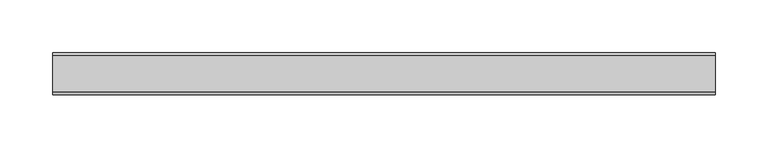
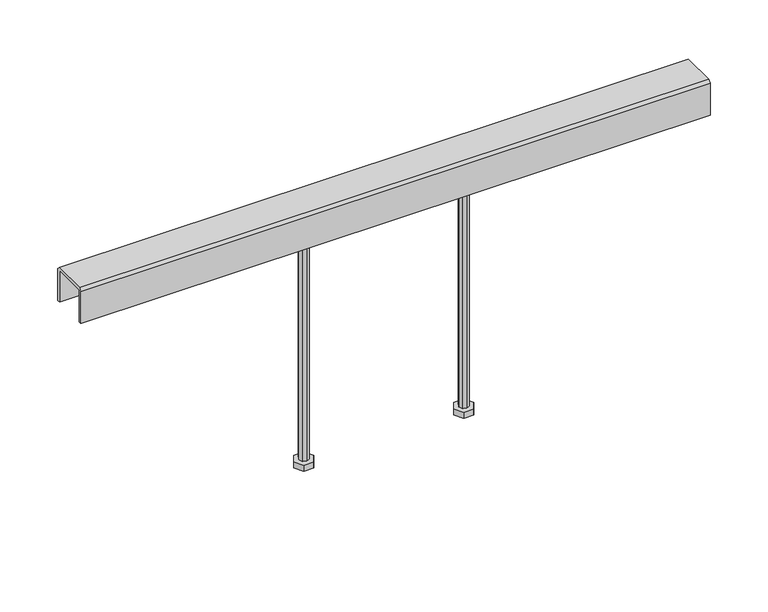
"""IFC4 building model written with IfcOpenShell, lengths in millimetres: proxy geometry, Beared-Hanger : BearedHanger."""

from ifc_helpers import new_model, si_unit, frame, origin, place, context, project, spatial, polyline, outline, extrude, source, transform, mapped, element, save


def mechanical_equipment_1677a866(model_context):
    return source(origin(), model_context, "Body", "SweptSolid", [
        extrude(outline(polyline([(64.9162901, -17.3962402), (64.9162901, 16.7883301), (94.7331846, 16.7883301), (94.7331846, -17.3962402), (64.9162901, -17.3962402)])), frame((0.0, 0.0, -636.4001991), z_axis=(0.0, 0.0, 1.0), x_axis=(1.0, 0.0, 0.0)), (0.0, 0.0, 1.0), 10.0),
        extrude(outline(polyline([(69.8247374, 0.0), (74.8247374, 8.659668), (84.8247374, 8.659668), (89.8247374, 0.0), (84.8247374, -8.659668), (74.8247374, -8.659668), (69.8247374, 0.0)])), frame((0.0, 0.0, -879.9847938), z_axis=(0.0, 0.0, 1.0), x_axis=(1.0, 0.0, 0.0)), (0.0, 0.0, 1.0), 6.6101074),
        extrude(outline(polyline([(79.8247374, 5.0), (83.3598936, 3.5351562), (84.8247374, 0.0), (83.3598936, -3.5351563), (79.8247374, -5.0), (76.2895811, -3.5351563), (74.824127, 0.0), (76.2895811, 3.5351562), (79.8247374, 5.0)])), frame((0.0, 0.0, -873.3746864), z_axis=(0.0, 0.0, 1.0), x_axis=(1.0, 0.0, 0.0)), (0.0, 0.0, 1.0), 236.9744873),
        extrude(outline(polyline([(-89.8247374, 0.0), (-84.8247374, 8.659668), (-74.8247374, 8.659668), (-69.8247374, 0.0), (-74.8247374, -8.659668), (-84.8247374, -8.659668), (-89.8247374, 0.0)])), frame((0.0, 0.0, -879.9847938), z_axis=(0.0, 0.0, 1.0), x_axis=(1.0, 0.0, 0.0)), (0.0, 0.0, 1.0), 6.6101074),
        extrude(outline(polyline([(-64.9162901, 16.7883301), (-64.9162901, -17.3962402), (-94.7331846, -17.3962402), (-94.7331846, 16.7883301), (-64.9162901, 16.7883301)])), frame((0.0, 0.0, -636.4001991), z_axis=(0.0, 0.0, 1.0), x_axis=(1.0, 0.0, 0.0)), (0.0, 0.0, 1.0), 10.0),
        extrude(outline(polyline([(-79.8247374, 5.0), (-76.2895811, 3.5351562), (-74.8247374, 0.0), (-76.2895811, -3.5351563), (-79.8247374, -5.0), (-83.3598936, -3.5351563), (-84.8253477, 0.0), (-83.3598936, 3.5351562), (-79.8247374, 5.0)])), frame((0.0, 0.0, -873.3746864), z_axis=(0.0, 0.0, 1.0), x_axis=(1.0, 0.0, 0.0)), (0.0, 0.0, 1.0), 236.9744873),
        extrude(outline(polyline([(-17.8259277, -599.9847938), (17.1740723, -599.9847938), (19.6740723, -602.4844886), (19.6740723, -636.4001991), (16.7883301, -636.4001991), (16.7883301, -602.9846717), (-17.3962402, -602.9846717), (-17.3962402, -636.4001991), (-20.3259277, -636.4001991), (-20.3259277, -602.4844886), (-17.8259277, -599.9847938)])), frame((-314.0247374, 0.0, 0.0), z_axis=(1.0, 0.0, 0.0), x_axis=(0.0, 1.0, 0.0)), (0.0, 0.0, 1.0), 628.0494747),
    ])


if __name__ == "__main__":
    model = new_model("IFC4")
    model_context = context("Model", 3, world=origin())
    ifc_project = project(units=[si_unit("LENGTHUNIT", "METRE", prefix="MILLI")], contexts=[model_context])
    site = spatial("IfcSite", under=ifc_project)
    building = spatial("IfcBuilding", under=site)
    placement = place(None, origin())
    mechanical_equipment_shape = mechanical_equipment_1677a866(model_context)
    element("IfcBuildingElementProxy", 1, Name="Beared-Hanger : BearedHanger", ObjectType="Beared-Hanger : BearedHanger", at=placement, inside=building, context=model_context, shape_type="MappedRepresentation", body=[
        mapped(mechanical_equipment_shape, transform((0.0, 0.0, 0.0), x_axis=(1.0, 0.0, 0.0), y_axis=(0.0, 1.0, 0.0), z_axis=(0.0, 0.0, 1.0))),
    ])
    save(model, "model.ifc")
